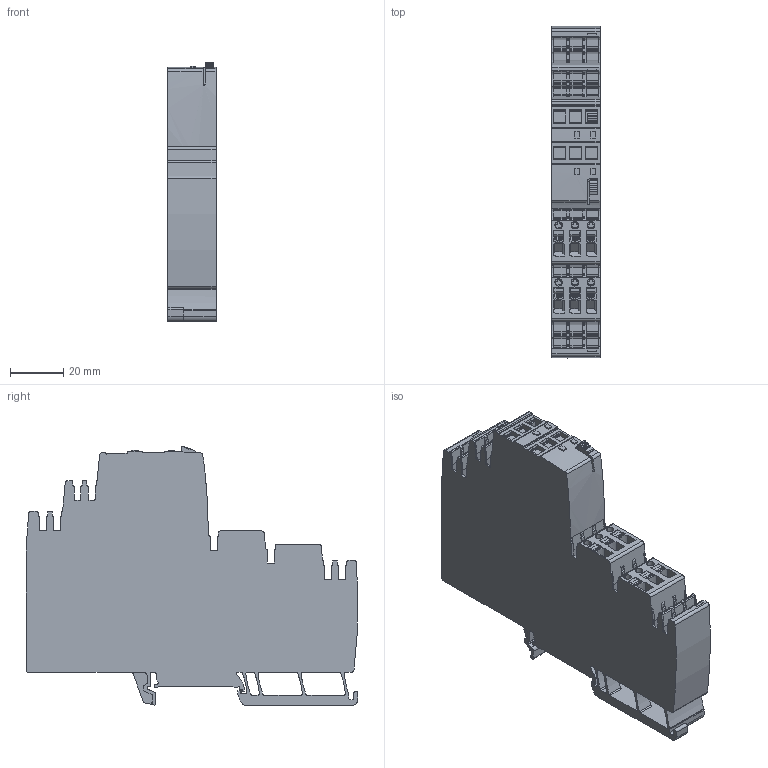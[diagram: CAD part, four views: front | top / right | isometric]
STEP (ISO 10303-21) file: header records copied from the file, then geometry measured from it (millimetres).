
FILE_DESCRIPTION(('CATIA V5R24 STEP','CAx-IF Rec.Pracs.--- Model Styling and Organization---1.2---2011-12-15'),'2;1');
FILE_NAME('\\SRVDE107\Germany\WMC\1_WMC_Input\Step_BU_PA\2082470000.stp','2017-09-05T08:18:31+00:00',('Weidmueller Interface'),('WI'),'CATIA Version 5-6 Release 2014 SP4','CATIA V5 STEP AP214','none');
FILE_SCHEMA(('AUTOMOTIVE_DESIGN { 1 0 10303 214 1 1 1 1 }'));
Length unit declared in the file: millimetre
Products named in the file (1): 2082470000
Bounding box: 18.2 x 125.07 x 97.53 mm (x, y, z)
Volume: 142115.1 mm3; surface area: 37543.5 mm2
Topology: 15 solids, 15 shells, 1923 faces, 5842 edges, 3998 vertices
Faces by surface type: plane 1095, cylinder 730, extrusion 96, bspline 2
Entity records: 68338 total; most frequent: CARTESIAN_POINT 15827, ORIENTED_EDGE 11684, DIRECTION 8524, EDGE_CURVE 5842, VECTOR 4021, VERTEX_POINT 3998, LINE 3925, AXIS2_PLACEMENT_3D 2989
